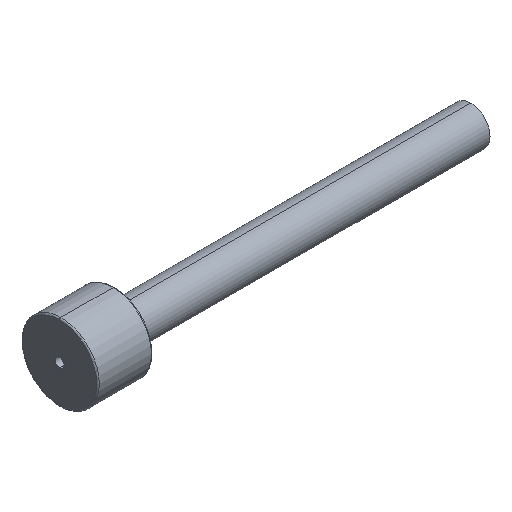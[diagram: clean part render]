
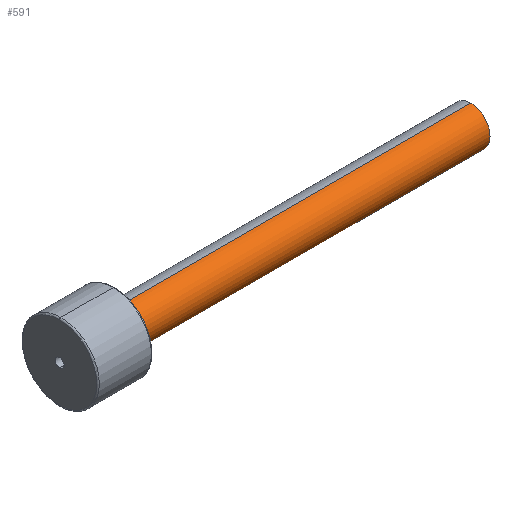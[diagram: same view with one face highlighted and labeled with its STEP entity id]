
A CAD part, isometric view. The second image highlights one B-rep face of the part: STEP entity #591.
In plain terms, the highlighted cylindrical face has radius 7 mm (diameter 14 mm), a partial arc.
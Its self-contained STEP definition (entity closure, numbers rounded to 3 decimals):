
#425=CARTESIAN_POINT('Vertex',(150.,0.,7.)) ;
#428=CARTESIAN_POINT('Axis2P3D Location',(150.,0.,0.)) ;
#432=CARTESIAN_POINT('Vertex',(150.,-7.,0.)) ;
#435=CARTESIAN_POINT('Axis2P3D Location',(150.,0.,0.)) ;
#439=CARTESIAN_POINT('Vertex',(150.,0.,-7.)) ;
#531=CARTESIAN_POINT('Line Origine',(150.,0.,7.)) ;
#535=CARTESIAN_POINT('Vertex',(20.,0.,7.)) ;
#538=CARTESIAN_POINT('Line Origine',(150.,0.,-7.)) ;
#542=CARTESIAN_POINT('Vertex',(20.,0.,-7.)) ;
#566=CARTESIAN_POINT('Axis2P3D Location',(150.,0.,0.)) ;
#571=CARTESIAN_POINT('Axis2P3D Location',(20.,0.,0.)) ;
#575=CARTESIAN_POINT('Vertex',(20.,-7.,0.)) ;
#578=CARTESIAN_POINT('Axis2P3D Location',(20.,0.,0.)) ;
#429=DIRECTION('Axis2P3D Direction',(1.,0.,-0.)) ;
#436=DIRECTION('Axis2P3D Direction',(1.,0.,-0.)) ;
#532=DIRECTION('Vector Direction',(-1.,0.,0.)) ;
#539=DIRECTION('Vector Direction',(-1.,0.,0.)) ;
#567=DIRECTION('Axis2P3D Direction',(-1.,-0.,-0.)) ;
#568=DIRECTION('Axis2P3D XDirection',(0.,0.,-1.)) ;
#572=DIRECTION('Axis2P3D Direction',(-1.,-0.,-0.)) ;
#579=DIRECTION('Axis2P3D Direction',(-1.,-0.,-0.)) ;
#430=AXIS2_PLACEMENT_3D('Circle Axis2P3D',#428,#429,$) ;
#437=AXIS2_PLACEMENT_3D('Circle Axis2P3D',#435,#436,$) ;
#569=AXIS2_PLACEMENT_3D('Cylinder Axis2P3D',#566,#567,#568) ;
#573=AXIS2_PLACEMENT_3D('Circle Axis2P3D',#571,#572,$) ;
#580=AXIS2_PLACEMENT_3D('Circle Axis2P3D',#578,#579,$) ;
#584=ORIENTED_EDGE('',*,*,#544,.T.) ;
#585=ORIENTED_EDGE('',*,*,#441,.F.) ;
#586=ORIENTED_EDGE('',*,*,#434,.F.) ;
#587=ORIENTED_EDGE('',*,*,#537,.T.) ;
#588=ORIENTED_EDGE('',*,*,#577,.T.) ;
#589=ORIENTED_EDGE('',*,*,#582,.T.) ;
#533=VECTOR('Line Direction',#532,1.) ;
#540=VECTOR('Line Direction',#539,1.) ;
#591=ADVANCED_FACE('367-14X150',(#590),#570,.T.) ;
#431=CIRCLE('generated circle',#430,7.) ;
#438=CIRCLE('generated circle',#437,7.) ;
#574=CIRCLE('generated circle',#573,7.) ;
#581=CIRCLE('generated circle',#580,7.) ;
#570=CYLINDRICAL_SURFACE('generated cylinder',#569,7.) ;
#434=EDGE_CURVE('',#426,#433,#431,.T.) ;
#441=EDGE_CURVE('',#433,#440,#438,.T.) ;
#537=EDGE_CURVE('',#426,#536,#534,.T.) ;
#544=EDGE_CURVE('',#543,#440,#541,.F.) ;
#577=EDGE_CURVE('',#536,#576,#574,.F.) ;
#582=EDGE_CURVE('',#576,#543,#581,.F.) ;
#583=EDGE_LOOP('',(#584,#585,#586,#587,#588,#589)) ;
#590=FACE_OUTER_BOUND('',#583,.T.) ;
#534=LINE('Line',#531,#533) ;
#541=LINE('Line',#538,#540) ;
#426=VERTEX_POINT('',#425) ;
#433=VERTEX_POINT('',#432) ;
#440=VERTEX_POINT('',#439) ;
#536=VERTEX_POINT('',#535) ;
#543=VERTEX_POINT('',#542) ;
#576=VERTEX_POINT('',#575) ;
